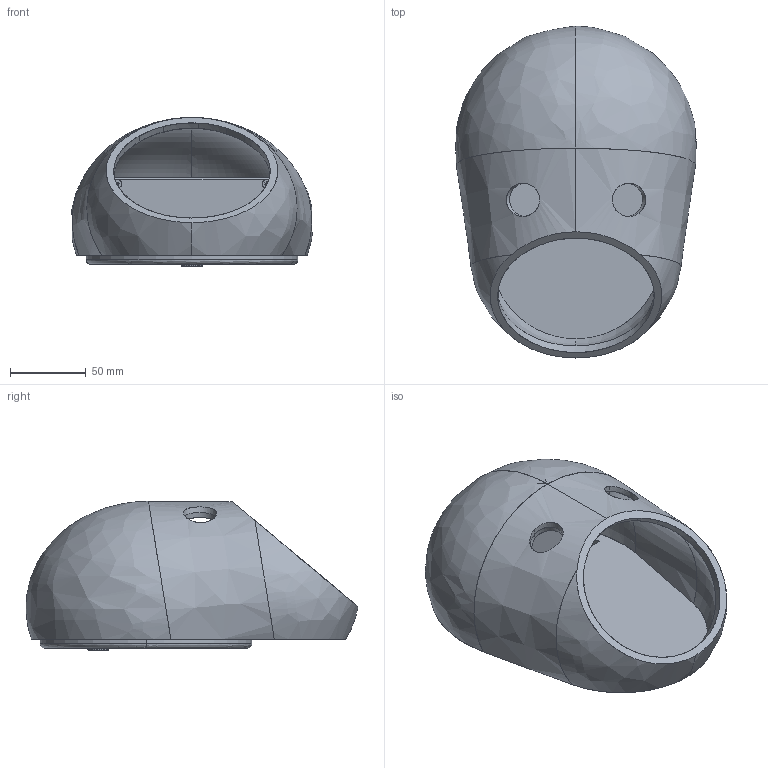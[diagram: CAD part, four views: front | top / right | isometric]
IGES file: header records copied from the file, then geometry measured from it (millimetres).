
Start section: SolidWorks IGES file using analytic representation for surfaces
Global section: file name: C:\Moooi\01_PRODUCTS\LI_Lighting Decorative\LI150 Orthenaartjes\11_Export\A000922_Creations_TED_19-10-2018.igs; native system: SolidWorks 2017; preprocessor: SolidWorks 2017; author: Nataliajaskowska; date: 181019.092214; units: millimetre
Bounding box: 158.88 x 219.35 x 98.5 mm (x, y, z)
Surface area: 244413.5 mm2 (no closed solid volume)
Topology: 0 solids, 0 shells, 1273 faces, 16065 edges, 16048 vertices
Faces by surface type: bspline 780, revolution 493
